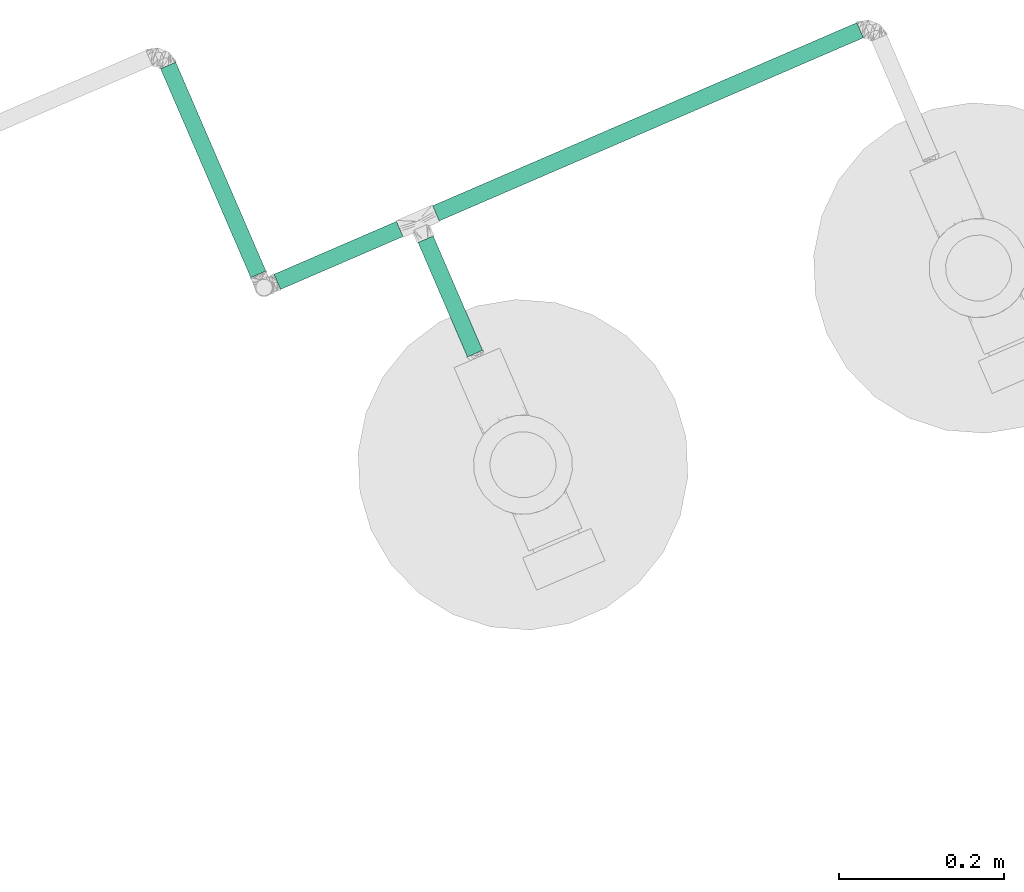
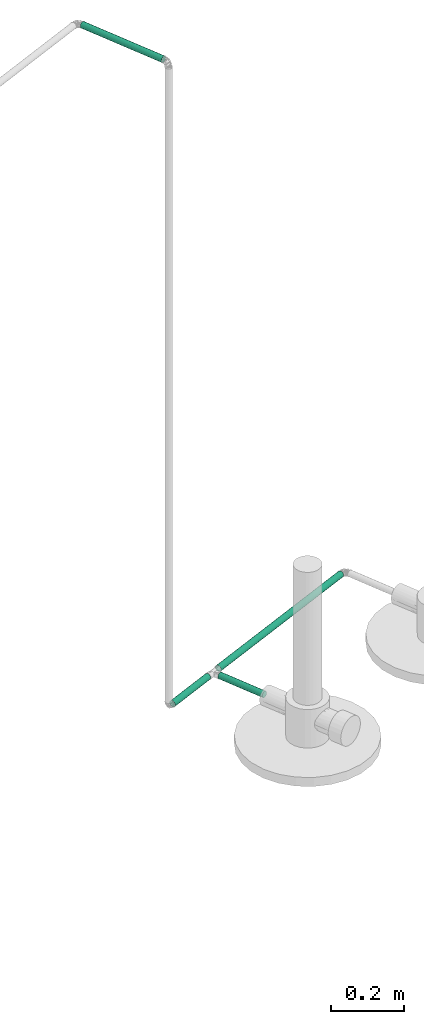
# One storey, part 15 of 26: 4 pipe segments.
"""IFC4 building model written with IfcOpenShell, lengths in metres."""

from ifc_helpers import new_model, entity, si_unit, converted_unit, derived_unit, direction, frame, origin, place, context, subcontext, project, spatial, arc, indexed_curve, outline, extrude, material, type_object, element, save


model = new_model("IFC4")

# Units and contexts
model_context = context("Model", 3, precision=1e-05, world=origin(), true_north=direction((6.12323399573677e-17, 1.0)))
body_context = subcontext(model_context, "Body", "Model", "MODEL_VIEW")
ifc_project = project(units=[si_unit("LENGTHUNIT", "METRE"), si_unit("AREAUNIT", "SQUARE_METRE"), si_unit("VOLUMEUNIT", "CUBIC_METRE"), si_unit("PRESSUREUNIT", "PASCAL"), derived_unit("VOLUMETRICFLOWRATEUNIT", [(si_unit("LENGTHUNIT", "METRE", prefix="DECI"), 3), (si_unit("TIMEUNIT", "SECOND"), -1)]), converted_unit("PLANEANGLEUNIT", "DEGREE", entity("IfcPlaneAngleMeasure", 0.0174532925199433), si_unit("PLANEANGLEUNIT", "RADIAN"), dimensions=[0, 0, 0, 0, 0, 0, 0])], contexts=[model_context])

# Site, building, storey
site_placement = place(None, origin())
site = spatial("IfcSite", under=ifc_project, at=site_placement, Name="Default", CompositionType="ELEMENT")
building_placement = place(site_placement, frame((24.575451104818, -55.896759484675, 317.15), z_axis=(0.0, 0.0, 1.0), x_axis=(-0.396377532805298, 0.918087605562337, 0.0)))
building = spatial("IfcBuilding", under=site, at=building_placement, CompositionType="ELEMENT")
storey_placement = place(building_placement, origin())
storey = spatial("IfcBuildingStorey", under=building, at=storey_placement, Name="Nivel 1", CompositionType="ELEMENT", Elevation=0.0)

# Pipe segments
ifc_material = material(Name="Cobre", Category="Undefined")
pipe_segment_type = type_object("IfcPipeSegmentType", Name="Pipe Types:GAS", PredefinedType="NOTDEFINED")
pipe_segment_1_placement = place(storey_placement, origin())
element("IfcPipeSegment", 1, at=pipe_segment_1_placement, inside=storey, type_object=pipe_segment_type, material=ifc_material, Name="Pipe Types:GAS", ObjectType="Pipe Types:GAS", PredefinedType="NOTDEFINED", context=body_context, shape_type="SweptSolid", body=[
    extrude(outline(indexed_curve([(0.0100000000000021, -1.35358391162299e-16), (0.00707106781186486, 0.0070710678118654), (0.0, 0.00999999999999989), (-0.00707106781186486, 0.0070710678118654), (-0.0100000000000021, -1.35358391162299e-16), (-0.00707106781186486, -0.00707106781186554), (0.0, -0.0100000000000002), (0.00707106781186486, -0.00707106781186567)], segments=[arc(1, 2, 3), arc(3, 4, 5), arc(5, 6, 7), arc(7, 8, 1)], self_intersect=False)), frame((34.9687146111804, 39.8576891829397, 0.855500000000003), z_axis=(0.0, 1.0, 0.0), x_axis=(1.0, 0.0, 0.0)), (0.0, 0.0, 1.0), 0.161262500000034),
])
pipe_segment_2_placement = place(storey_placement, origin())
element("IfcPipeSegment", 2, at=pipe_segment_2_placement, inside=storey, type_object=pipe_segment_type, material=ifc_material, Name="Pipe Types:GAS", ObjectType="Pipe Types:GAS", PredefinedType="NOTDEFINED", context=body_context, shape_type="SweptSolid", body=[
    extrude(outline(indexed_curve([(0.00999999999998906, 1.35358391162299e-16), (0.00707106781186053, 0.00707106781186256), (0.0, 0.0100000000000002), (-0.00707106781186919, 0.00707106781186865), (-0.0100000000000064, 1.35358391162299e-16), (-0.00707106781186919, -0.00707106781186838), (0.0, -0.00999999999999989), (0.00707106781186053, -0.00707106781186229)], segments=[arc(1, 2, 3), arc(3, 4, 5), arc(5, 6, 7), arc(7, 8, 1)], self_intersect=False)), frame((34.7942708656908, 39.8338766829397, 0.855500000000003), z_axis=(1.0, 0.0, 0.0), x_axis=(0.0, 1.0, 0.0)), (0.0, 0.0, 1.0), 0.150631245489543),
])
pipe_segment_3_placement = place(storey_placement, origin())
element("IfcPipeSegment", 3, at=pipe_segment_3_placement, inside=storey, type_object=pipe_segment_type, material=ifc_material, Name="Pipe Types:GAS", ObjectType="Pipe Types:GAS", PredefinedType="NOTDEFINED", context=body_context, shape_type="SweptSolid", body=[
    extrude(outline(indexed_curve([(0.0100000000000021, 0.0), (0.00707106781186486, 0.00707106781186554), (0.0, 0.01), (-0.00707106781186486, 0.00707106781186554), (-0.0100000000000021, 0.0), (-0.00707106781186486, -0.0070710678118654), (0.0, -0.01), (0.00707106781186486, -0.00707106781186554)], segments=[arc(1, 2, 3), arc(3, 4, 5), arc(5, 6, 7), arc(7, 8, 1)], self_intersect=False)), frame((34.9687146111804, 39.2513391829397, 0.855499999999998), z_axis=(0.0, 1.0, 0.0), x_axis=(1.0, 0.0, 0.0)), (0.0, 0.0, 1.0), 0.558724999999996),
])
pipe_segment_4_placement = place(storey_placement, origin())
element("IfcPipeSegment", 4, at=pipe_segment_4_placement, inside=storey, type_object=pipe_segment_type, material=ifc_material, Name="Pipe Types:GAS", ObjectType="Pipe Types:GAS", PredefinedType="NOTDEFINED", context=body_context, shape_type="SweptSolid", body=[
    extrude(outline(indexed_curve([(0.00999999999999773, -4.31279595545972e-19), (0.00707106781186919, 0.0070710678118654), (4.31279595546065e-19, 0.00999999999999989), (-0.00707106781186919, 0.0070710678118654), (-0.00999999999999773, 4.31279595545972e-19), (-0.00707106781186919, -0.0070710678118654), (-4.31279595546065e-19, -0.00999999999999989), (0.00707106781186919, -0.0070710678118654)], segments=[arc(1, 2, 3), arc(3, 4, 5), arc(5, 6, 7), arc(7, 8, 1)], self_intersect=False)), frame((34.9861771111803, 40.0364141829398, 3.0), z_axis=(1.0, 0.0, 0.0), x_axis=(0.0, 1.0, 0.0)), (0.0, 0.0, 1.0), 0.275075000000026),
])

save(model, "model.ifc")
